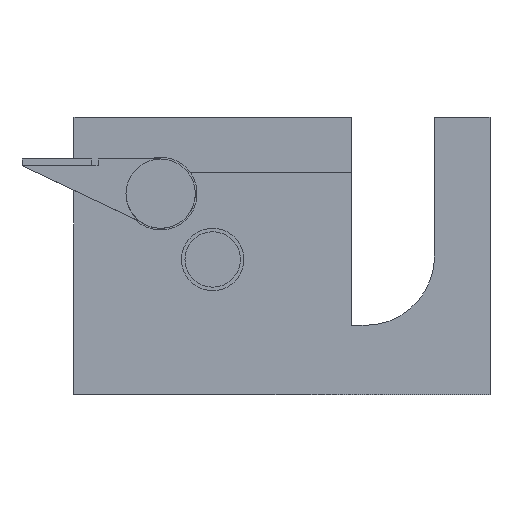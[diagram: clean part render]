
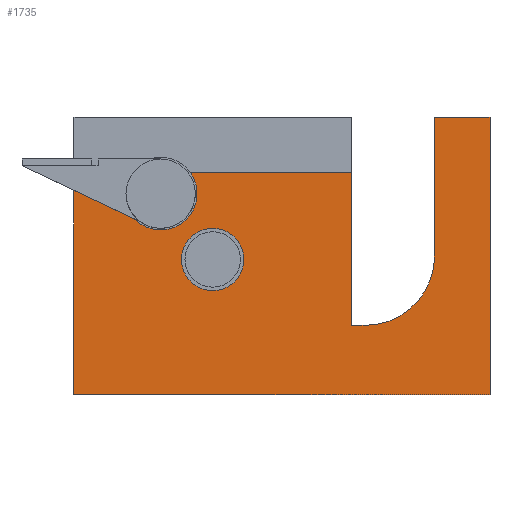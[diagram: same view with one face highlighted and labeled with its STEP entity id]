
A CAD part, left-side view. The second image highlights one B-rep face of the part: STEP entity #1735.
In plain terms, the highlighted planar face has unit normal (-1, 0, 0).
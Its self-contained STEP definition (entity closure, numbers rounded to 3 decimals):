
#32 = DIRECTION ( 'NONE',  ( 0., 0., -1. ) ) ;
#33 = DIRECTION ( 'NONE',  ( 1., 0., 0. ) ) ;
#34 = CARTESIAN_POINT ( 'NONE',  ( -20., 18., 0. ) ) ;
#35 = AXIS2_PLACEMENT_3D ( 'NONE', #34, #33, #32 ) ;
#36 = PLANE ( 'NONE',  #35 ) ;
#37 = FACE_BOUND ( 'NONE', #1745, .T. ) ;
#38 = FACE_BOUND ( 'NONE', #1728, .T. ) ;
#39 = FACE_OUTER_BOUND ( 'NONE', #1742, .T. ) ;
#53 = CARTESIAN_POINT ( 'NONE',  ( -20., 20., 12. ) ) ;
#72 = DIRECTION ( 'NONE',  ( 0., 1., 0. ) ) ;
#73 = DIRECTION ( 'NONE',  ( -1., 0., 0. ) ) ;
#80 = CARTESIAN_POINT ( 'NONE',  ( -20., 20., -10. ) ) ;
#81 = CARTESIAN_POINT ( 'NONE',  ( -20., 20., 12. ) ) ;
#82 = DIRECTION ( 'NONE',  ( 0., 1., 0. ) ) ;
#85 = VECTOR ( 'NONE', #82, 1000. ) ;
#86 = DIRECTION ( 'NONE',  ( 0., 0., 1. ) ) ;
#108 = VECTOR ( 'NONE', #86, 1000. ) ;
#109 = AXIS2_PLACEMENT_3D ( 'NONE', #113, #73, #72 ) ;
#110 = CIRCLE ( 'NONE', #109, 4.5 ) ;
#113 = CARTESIAN_POINT ( 'NONE',  ( -20., 40., -0.5 ) ) ;
#115 = LINE ( 'NONE', #81, #85 ) ;
#116 = LINE ( 'NONE', #80, #108 ) ;
#824 = AXIS2_PLACEMENT_3D ( 'NONE', #827, #826, #828 ) ;
#825 = CIRCLE ( 'NONE', #824, 2. ) ;
#826 = DIRECTION ( 'NONE',  ( -1., 0., 0. ) ) ;
#827 = CARTESIAN_POINT ( 'NONE',  ( -20., 47.5, 9. ) ) ;
#828 = DIRECTION ( 'NONE',  ( 0., 0., 1. ) ) ;
#866 = VERTEX_POINT ( 'NONE', #952 ) ;
#868 = EDGE_CURVE ( 'NONE', #900, #901, #825, .T. ) ;
#898 = VERTEX_POINT ( 'NONE', #1078 ) ;
#900 = VERTEX_POINT ( 'NONE', #1077 ) ;
#901 = VERTEX_POINT ( 'NONE', #1076 ) ;
#906 = EDGE_CURVE ( 'NONE', #866, #898, #1069, .T. ) ;
#952 = CARTESIAN_POINT ( 'NONE',  ( -20., 35.5, -0.5 ) ) ;
#1000 = DIRECTION ( 'NONE',  ( 0., 1., 0. ) ) ;
#1001 = DIRECTION ( 'NONE',  ( -1., 0., 0. ) ) ;
#1068 = AXIS2_PLACEMENT_3D ( 'NONE', #1075, #1001, #1000 ) ;
#1069 = CIRCLE ( 'NONE', #1068, 4.5 ) ;
#1075 = CARTESIAN_POINT ( 'NONE',  ( -20., 40., -0.5 ) ) ;
#1076 = CARTESIAN_POINT ( 'NONE',  ( -20., 49.432, 9.518 ) ) ;
#1077 = CARTESIAN_POINT ( 'NONE',  ( -20., 45.568, 8.482 ) ) ;
#1078 = CARTESIAN_POINT ( 'NONE',  ( -20., 44.5, -0.5 ) ) ;
#1600 = EDGE_CURVE ( 'NONE', #1602, #1604, #3128, .T. ) ;
#1602 = VERTEX_POINT ( 'NONE', #3190 ) ;
#1604 = VERTEX_POINT ( 'NONE', #3187 ) ;
#1619 = EDGE_CURVE ( 'NONE', #1604, #1620, #3223, .T. ) ;
#1620 = VERTEX_POINT ( 'NONE', #3222 ) ;
#1622 = EDGE_CURVE ( 'NONE', #1620, #1628, #3235, .T. ) ;
#1628 = VERTEX_POINT ( 'NONE', #3226 ) ;
#1637 = VERTEX_POINT ( 'NONE', #3252 ) ;
#1641 = EDGE_CURVE ( 'NONE', #1664, #1637, #3271, .T. ) ;
#1655 = VERTEX_POINT ( 'NONE', #3291 ) ;
#1657 = EDGE_CURVE ( 'NONE', #1628, #1655, #3298, .T. ) ;
#1659 = VERTEX_POINT ( 'NONE', #3286 ) ;
#1660 = EDGE_CURVE ( 'NONE', #1659, #1664, #3285, .T. ) ;
#1664 = VERTEX_POINT ( 'NONE', #3325 ) ;
#1709 = EDGE_CURVE ( 'NONE', #1637, #1602, #3320, .T. ) ;
#1728 = EDGE_LOOP ( 'NONE', ( #1729, #1748 ) ) ;
#1729 = ORIENTED_EDGE ( 'NONE', *, *, #868, .F. ) ;
#1730 = ORIENTED_EDGE ( 'NONE', *, *, #1767, .F. ) ;
#1731 = ORIENTED_EDGE ( 'NONE', *, *, #1619, .F. ) ;
#1733 = ORIENTED_EDGE ( 'NONE', *, *, #906, .F. ) ;
#1735 = ADVANCED_FACE ( 'NONE', ( #39, #38, #37 ), #36, .F. ) ;
#1736 = ORIENTED_EDGE ( 'NONE', *, *, #1600, .F. ) ;
#1737 = ORIENTED_EDGE ( 'NONE', *, *, #1709, .F. ) ;
#1742 = EDGE_LOOP ( 'NONE', ( #1736, #1737, #1747, #1760, #1754, #1756, #1759, #1749, #1731 ) ) ;
#1745 = EDGE_LOOP ( 'NONE', ( #1730, #1733 ) ) ;
#1746 = EDGE_CURVE ( 'NONE', #901, #900, #3212, .T. ) ;
#1747 = ORIENTED_EDGE ( 'NONE', *, *, #1641, .F. ) ;
#1748 = ORIENTED_EDGE ( 'NONE', *, *, #1746, .F. ) ;
#1749 = ORIENTED_EDGE ( 'NONE', *, *, #1622, .F. ) ;
#1751 = VERTEX_POINT ( 'NONE', #53 ) ;
#1754 = ORIENTED_EDGE ( 'NONE', *, *, #1764, .T. ) ;
#1756 = ORIENTED_EDGE ( 'NONE', *, *, #1765, .T. ) ;
#1759 = ORIENTED_EDGE ( 'NONE', *, *, #1657, .F. ) ;
#1760 = ORIENTED_EDGE ( 'NONE', *, *, #1660, .F. ) ;
#1764 = EDGE_CURVE ( 'NONE', #1659, #1751, #116, .T. ) ;
#1765 = EDGE_CURVE ( 'NONE', #1751, #1655, #115, .T. ) ;
#1767 = EDGE_CURVE ( 'NONE', #898, #866, #110, .T. ) ;
#3127 = CARTESIAN_POINT ( 'NONE',  ( -20., 8., 20. ) ) ;
#3128 = LINE ( 'NONE', #3127, #3134 ) ;
#3134 = VECTOR ( 'NONE', #3172, 1000. ) ;
#3172 = DIRECTION ( 'NONE',  ( 0., -1., 0. ) ) ;
#3187 = CARTESIAN_POINT ( 'NONE',  ( -20., 0., 20. ) ) ;
#3190 = CARTESIAN_POINT ( 'NONE',  ( -20., 8., 20. ) ) ;
#3212 = CIRCLE ( 'NONE', #3215, 2. ) ;
#3214 = DIRECTION ( 'NONE',  ( -1., 0., 0. ) ) ;
#3215 = AXIS2_PLACEMENT_3D ( 'NONE', #3219, #3214, #3217 ) ;
#3217 = DIRECTION ( 'NONE',  ( 0., 0., 1. ) ) ;
#3219 = CARTESIAN_POINT ( 'NONE',  ( -20., 47.5, 9. ) ) ;
#3222 = CARTESIAN_POINT ( 'NONE',  ( -20., 0., -20. ) ) ;
#3223 = LINE ( 'NONE', #3236, #3242 ) ;
#3226 = CARTESIAN_POINT ( 'NONE',  ( -20., 60., -20. ) ) ;
#3232 = DIRECTION ( 'NONE',  ( 0., 1., 0. ) ) ;
#3233 = VECTOR ( 'NONE', #3232, 1000. ) ;
#3234 = CARTESIAN_POINT ( 'NONE',  ( -20., 0., -20. ) ) ;
#3235 = LINE ( 'NONE', #3234, #3233 ) ;
#3236 = CARTESIAN_POINT ( 'NONE',  ( -20., 0., 20. ) ) ;
#3241 = DIRECTION ( 'NONE',  ( 0., 0., -1. ) ) ;
#3242 = VECTOR ( 'NONE', #3241, 1000. ) ;
#3252 = CARTESIAN_POINT ( 'NONE',  ( -20., 8., 0. ) ) ;
#3265 = DIRECTION ( 'NONE',  ( 0., 0., -1. ) ) ;
#3266 = DIRECTION ( 'NONE',  ( -1., 0., 0. ) ) ;
#3269 = CARTESIAN_POINT ( 'NONE',  ( -20., 18., 0. ) ) ;
#3270 = AXIS2_PLACEMENT_3D ( 'NONE', #3269, #3266, #3265 ) ;
#3271 = CIRCLE ( 'NONE', #3270, 10. ) ;
#3282 = DIRECTION ( 'NONE',  ( 0., -1., 0. ) ) ;
#3283 = VECTOR ( 'NONE', #3282, 1000. ) ;
#3284 = CARTESIAN_POINT ( 'NONE',  ( -20., 60., -10. ) ) ;
#3285 = LINE ( 'NONE', #3284, #3283 ) ;
#3286 = CARTESIAN_POINT ( 'NONE',  ( -20., 20., -10. ) ) ;
#3287 = DIRECTION ( 'NONE',  ( 0., 0., 1. ) ) ;
#3288 = VECTOR ( 'NONE', #3287, 1000. ) ;
#3291 = CARTESIAN_POINT ( 'NONE',  ( -20., 60., 12. ) ) ;
#3297 = CARTESIAN_POINT ( 'NONE',  ( -20., 60., -20. ) ) ;
#3298 = LINE ( 'NONE', #3297, #3288 ) ;
#3317 = DIRECTION ( 'NONE',  ( 0., 0., 1. ) ) ;
#3318 = VECTOR ( 'NONE', #3317, 1000. ) ;
#3319 = CARTESIAN_POINT ( 'NONE',  ( -20., 8., 0. ) ) ;
#3320 = LINE ( 'NONE', #3319, #3318 ) ;
#3325 = CARTESIAN_POINT ( 'NONE',  ( -20., 18., -10. ) ) ;
